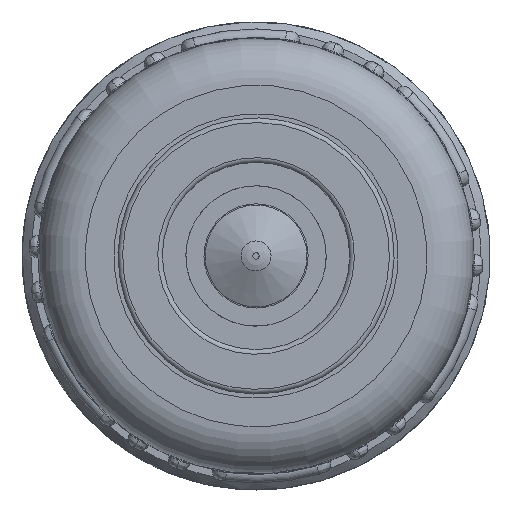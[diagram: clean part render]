
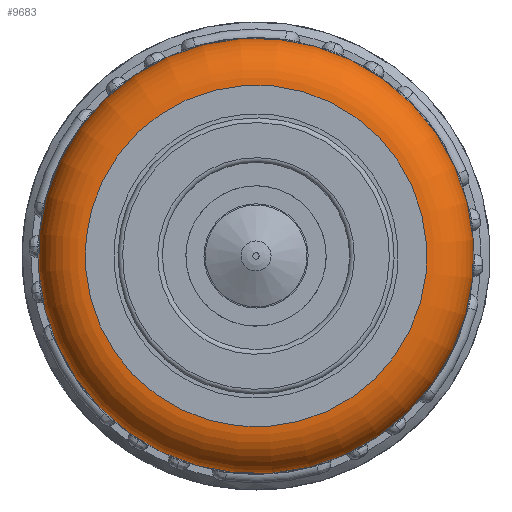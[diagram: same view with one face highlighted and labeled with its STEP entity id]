
A CAD part, front view. The second image highlights one B-rep face of the part: STEP entity #9683.
In plain terms, the highlighted toroidal (fillet/blend) face has major radius 18.25 mm and minor radius 5 mm.
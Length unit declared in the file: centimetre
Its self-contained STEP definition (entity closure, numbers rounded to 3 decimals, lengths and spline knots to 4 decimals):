
#2041=FACE_BOUND('',#3026,.T.);
#2401=FACE_OUTER_BOUND('',#3025,.T.);
#3025=EDGE_LOOP('',(#7578));
#3026=EDGE_LOOP('',(#7579));
#3546=CIRCLE('',#10449,1.825);
#3548=CIRCLE('',#10452,2.325);
#4292=VERTEX_POINT('',#38328);
#4294=VERTEX_POINT('',#38333);
#5471=EDGE_CURVE('',#4292,#4292,#3546,.T.);
#5473=EDGE_CURVE('',#4294,#4294,#3548,.T.);
#7578=ORIENTED_EDGE('',*,*,#5473,.F.);
#7579=ORIENTED_EDGE('',*,*,#5471,.T.);
#8781=TOROIDAL_SURFACE('',#10451,1.825,0.5);
#9683=ADVANCED_FACE('',(#2401,#2041),#8781,.T.);
#10449=AXIS2_PLACEMENT_3D('',#38329,#12213,#12214);
#10451=AXIS2_PLACEMENT_3D('',#38332,#12217,#12218);
#10452=AXIS2_PLACEMENT_3D('',#38334,#12219,#12220);
#12213=DIRECTION('center_axis',(0.,1.,0.));
#12214=DIRECTION('ref_axis',(-0.827,0.,-0.562));
#12217=DIRECTION('center_axis',(0.,1.,0.));
#12218=DIRECTION('ref_axis',(0.562,0.,-0.827));
#12219=DIRECTION('center_axis',(0.,1.,0.));
#12220=DIRECTION('ref_axis',(-0.827,0.,-0.562));
#38328=CARTESIAN_POINT('',(1.5095,-3.1601,1.0256));
#38329=CARTESIAN_POINT('Origin',(0.,-3.1601,
0.));
#38332=CARTESIAN_POINT('Origin',(0.,-2.6601,
0.));
#38333=CARTESIAN_POINT('',(1.9231,-2.6601,1.3066));
#38334=CARTESIAN_POINT('Origin',(0.,-2.6601,
0.));
